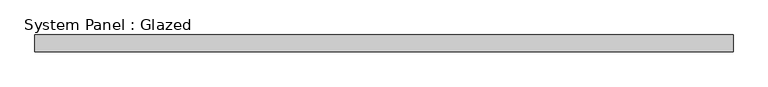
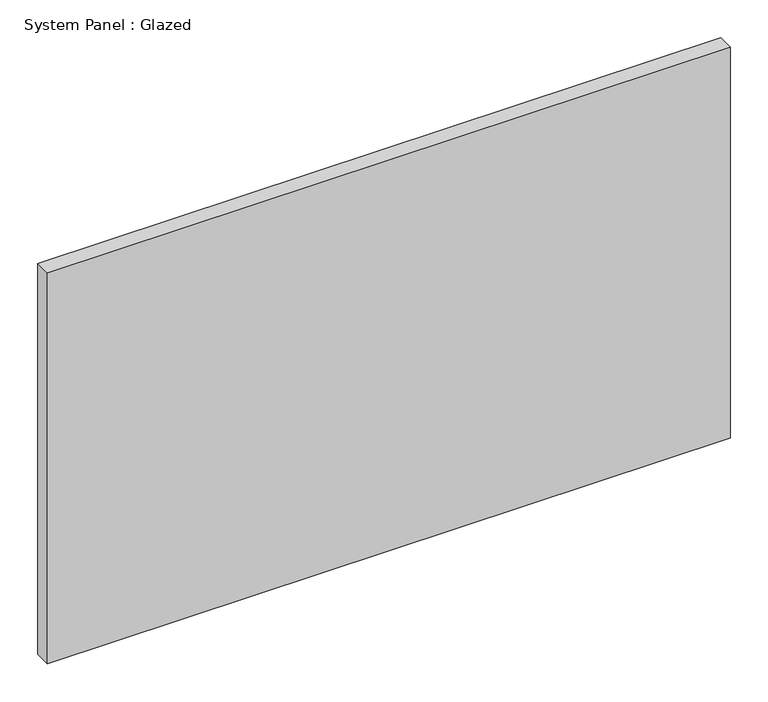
"""IFC4 building model written with IfcOpenShell, lengths in millimetres: plate geometry, System Panel : Glazed."""

from ifc_helpers import new_model, si_unit, origin, origin_with_axes, place, context, project, spatial, polyline, outline, extrude, source, transform, mapped, element, save


def system_panel_glazed_d1cff054(model_context):
    return source(origin(), model_context, "Body", "SweptSolid", [
        extrude(outline(polyline([(519.9414771, 24.5), (-519.9414771, 24.5), (-519.9414771, 49.5), (519.9414771, 49.5), (519.9414771, 24.5)])), origin_with_axes(), (0.0, 0.0, 1.0), 629.2467495),
    ])


if __name__ == "__main__":
    model = new_model("IFC4")
    model_context = context("Model", 3, world=origin())
    ifc_project = project(units=[si_unit("LENGTHUNIT", "METRE", prefix="MILLI")], contexts=[model_context])
    site = spatial("IfcSite", under=ifc_project)
    building = spatial("IfcBuilding", under=site)
    placement = place(None, origin())
    system_panel_glazed_shape = system_panel_glazed_d1cff054(model_context)
    element("IfcPlate", 1, ObjectType="System Panel : Glazed", at=placement, inside=building, context=model_context, shape_type="MappedRepresentation", body=[
        mapped(system_panel_glazed_shape, transform((0.0, 0.0, 0.0), x_axis=(1.0, 0.0, 0.0), y_axis=(0.0, 1.0, 0.0), z_axis=(0.0, 0.0, 1.0))),
    ])
    save(model, "model.ifc")
